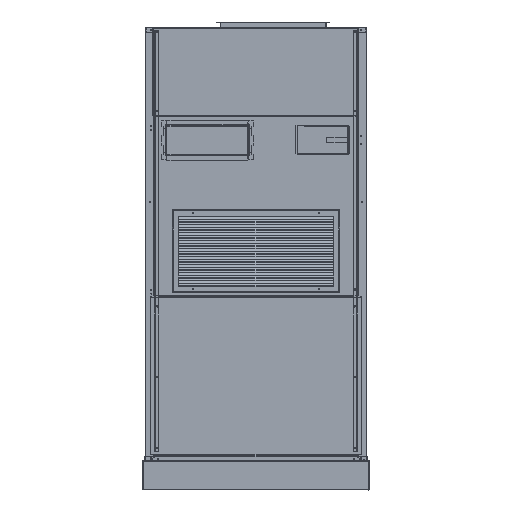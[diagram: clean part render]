
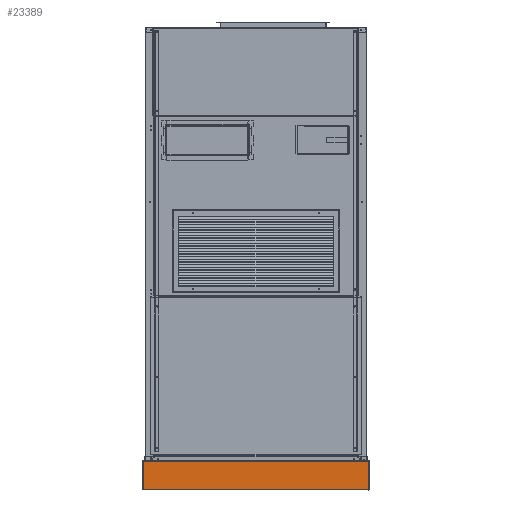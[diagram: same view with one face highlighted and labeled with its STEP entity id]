
A CAD part, top view. The second image highlights one B-rep face of the part: STEP entity #23389.
In plain terms, the highlighted planar face has unit normal (0, 0, 1).
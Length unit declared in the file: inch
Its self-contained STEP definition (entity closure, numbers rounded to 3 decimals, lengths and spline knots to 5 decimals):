
#282 = VERTEX_POINT ( 'NONE', #85675 ) ;
#1412 = DIRECTION ( 'NONE',  ( -1., 0., 0. ) ) ;
#2372 = ORIENTED_EDGE ( 'NONE', *, *, #50198, .F. ) ;
#3172 = VECTOR ( 'NONE', #7396, 39.37008 ) ;
#3379 = EDGE_CURVE ( 'NONE', #103857, #48977, #13466, .T. ) ;
#3678 = LINE ( 'NONE', #85674, #107593 ) ;
#6134 = ORIENTED_EDGE ( 'NONE', *, *, #111327, .F. ) ;
#6930 = CARTESIAN_POINT ( 'NONE',  ( -67.30526, -27.15107, 0. ) ) ;
#7396 = DIRECTION ( 'NONE',  ( -1., 0., 0. ) ) ;
#8887 = ORIENTED_EDGE ( 'NONE', *, *, #3379, .F. ) ;
#9468 = EDGE_CURVE ( 'NONE', #31089, #123033, #127142, .T. ) ;
#11579 = ORIENTED_EDGE ( 'NONE', *, *, #53661, .F. ) ;
#12474 = VECTOR ( 'NONE', #128857, 39.37008 ) ;
#12827 = LINE ( 'NONE', #40923, #66367 ) ;
#13466 = LINE ( 'NONE', #96702, #74826 ) ;
#14210 = CARTESIAN_POINT ( 'NONE',  ( -24.60136, -21.82077, 0. ) ) ;
#14978 = VERTEX_POINT ( 'NONE', #64789 ) ;
#17554 = CARTESIAN_POINT ( 'NONE',  ( -24.60136, -27.15042, 0. ) ) ;
#17643 = DIRECTION ( 'NONE',  ( 1., 0., 0. ) ) ;
#18697 = EDGE_CURVE ( 'NONE', #59432, #55874, #102962, .T. ) ;
#20166 = VERTEX_POINT ( 'NONE', #91400 ) ;
#23389 = ADVANCED_FACE ( 'NONE', ( #38035 ), #41029, .F. ) ;
#24096 = EDGE_CURVE ( 'NONE', #85634, #282, #30050, .T. ) ;
#24524 = CARTESIAN_POINT ( 'NONE',  ( -9.01411, -27.15107, 0. ) ) ;
#24996 = CARTESIAN_POINT ( 'NONE',  ( -9.01411, -21.82142, 0. ) ) ;
#28635 = CARTESIAN_POINT ( 'NONE',  ( -67.30591, -20.32749, 0. ) ) ;
#29080 = VECTOR ( 'NONE', #108273, 39.37008 ) ;
#30050 = LINE ( 'NONE', #24996, #104095 ) ;
#31089 = VERTEX_POINT ( 'NONE', #121497 ) ;
#36434 = DIRECTION ( 'NONE',  ( -1., 0., 0. ) ) ;
#37273 = CARTESIAN_POINT ( 'NONE',  ( -24.60071, -20.32749, 0. ) ) ;
#38035 = FACE_OUTER_BOUND ( 'NONE', #105632, .T. ) ;
#40923 = CARTESIAN_POINT ( 'NONE',  ( -9.01411, -21.82142, 0. ) ) ;
#41029 = PLANE ( 'NONE',  #53947 ) ;
#42589 = ORIENTED_EDGE ( 'NONE', *, *, #110709, .F. ) ;
#45164 = DIRECTION ( 'NONE',  ( 0., 1., 0. ) ) ;
#46238 = LINE ( 'NONE', #28635, #90345 ) ;
#47835 = EDGE_CURVE ( 'NONE', #100023, #59432, #3678, .T. ) ;
#48977 = VERTEX_POINT ( 'NONE', #17554 ) ;
#48979 = ORIENTED_EDGE ( 'NONE', *, *, #9468, .F. ) ;
#50198 = EDGE_CURVE ( 'NONE', #282, #103857, #124309, .T. ) ;
#50353 = ORIENTED_EDGE ( 'NONE', *, *, #72268, .F. ) ;
#51055 = DIRECTION ( 'NONE',  ( 1., 0., 0. ) ) ;
#52871 = CARTESIAN_POINT ( 'NONE',  ( -67.30591, -27.15042, 0. ) ) ;
#53661 = EDGE_CURVE ( 'NONE', #48977, #31089, #79509, .T. ) ;
#53947 = AXIS2_PLACEMENT_3D ( 'NONE', #122059, #61799, #1412 ) ;
#54228 = EDGE_CURVE ( 'NONE', #14978, #124038, #110226, .T. ) ;
#55874 = VERTEX_POINT ( 'NONE', #14210 ) ;
#57566 = CARTESIAN_POINT ( 'NONE',  ( -9.01411, -27.15042, 0. ) ) ;
#58483 = CARTESIAN_POINT ( 'NONE',  ( -67.30526, -20.32749, 0. ) ) ;
#59202 = CARTESIAN_POINT ( 'NONE',  ( -24.60136, -20.32749, 0. ) ) ;
#59432 = VERTEX_POINT ( 'NONE', #102815 ) ;
#61799 = DIRECTION ( 'NONE',  ( 0., 0., -1. ) ) ;
#63002 = VECTOR ( 'NONE', #109756, 39.37008 ) ;
#64789 = CARTESIAN_POINT ( 'NONE',  ( -67.30526, -27.15042, 0. ) ) ;
#66367 = VECTOR ( 'NONE', #51055, 39.37008 ) ;
#69888 = ORIENTED_EDGE ( 'NONE', *, *, #24096, .F. ) ;
#72268 = EDGE_CURVE ( 'NONE', #124038, #20166, #46238, .T. ) ;
#74826 = VECTOR ( 'NONE', #36434, 39.37008 ) ;
#76223 = VECTOR ( 'NONE', #17643, 39.37008 ) ;
#77520 = ORIENTED_EDGE ( 'NONE', *, *, #47835, .F. ) ;
#79509 = LINE ( 'NONE', #88078, #29080 ) ;
#84832 = DIRECTION ( 'NONE',  ( -1., 0., 0. ) ) ;
#85634 = VERTEX_POINT ( 'NONE', #98850 ) ;
#85674 = CARTESIAN_POINT ( 'NONE',  ( -67.30526, -20.32749, 0. ) ) ;
#85675 = CARTESIAN_POINT ( 'NONE',  ( -24.60071, -21.82142, 0. ) ) ;
#88078 = CARTESIAN_POINT ( 'NONE',  ( -24.60136, -20.32749, 0. ) ) ;
#90345 = VECTOR ( 'NONE', #109169, 39.37008 ) ;
#91400 = CARTESIAN_POINT ( 'NONE',  ( -67.30591, -21.82142, 0. ) ) ;
#92949 = LINE ( 'NONE', #59202, #63002 ) ;
#94666 = EDGE_CURVE ( 'NONE', #123033, #14978, #119525, .T. ) ;
#95459 = DIRECTION ( 'NONE',  ( 1., 0., 0. ) ) ;
#96702 = CARTESIAN_POINT ( 'NONE',  ( -9.01411, -27.15042, 0. ) ) ;
#97526 = DIRECTION ( 'NONE',  ( 0., -1., 0. ) ) ;
#98850 = CARTESIAN_POINT ( 'NONE',  ( -24.60136, -21.82142, 0. ) ) ;
#100023 = VERTEX_POINT ( 'NONE', #111140 ) ;
#100340 = VECTOR ( 'NONE', #84832, 39.37008 ) ;
#102815 = CARTESIAN_POINT ( 'NONE',  ( -67.30526, -21.82077, 0. ) ) ;
#102962 = LINE ( 'NONE', #117931, #76223 ) ;
#103857 = VERTEX_POINT ( 'NONE', #111330 ) ;
#104095 = VECTOR ( 'NONE', #95459, 39.37008 ) ;
#105632 = EDGE_LOOP ( 'NONE', ( #69888, #42589, #125279, #77520, #6134, #50353, #119595, #121004, #48979, #11579, #8887, #2372 ) ) ;
#107593 = VECTOR ( 'NONE', #45164, 39.37008 ) ;
#108273 = DIRECTION ( 'NONE',  ( 0., -1., 0. ) ) ;
#109169 = DIRECTION ( 'NONE',  ( 0., 1., 0. ) ) ;
#109756 = DIRECTION ( 'NONE',  ( 0., -1., 0. ) ) ;
#110226 = LINE ( 'NONE', #57566, #3172 ) ;
#110709 = EDGE_CURVE ( 'NONE', #55874, #85634, #92949, .T. ) ;
#111140 = CARTESIAN_POINT ( 'NONE',  ( -67.30526, -21.82142, 0. ) ) ;
#111327 = EDGE_CURVE ( 'NONE', #20166, #100023, #12827, .T. ) ;
#111330 = CARTESIAN_POINT ( 'NONE',  ( -24.60071, -27.15042, 0. ) ) ;
#117931 = CARTESIAN_POINT ( 'NONE',  ( -9.01411, -21.82077, 0. ) ) ;
#119525 = LINE ( 'NONE', #58483, #12474 ) ;
#119595 = ORIENTED_EDGE ( 'NONE', *, *, #54228, .F. ) ;
#121004 = ORIENTED_EDGE ( 'NONE', *, *, #94666, .F. ) ;
#121144 = VECTOR ( 'NONE', #97526, 39.37008 ) ;
#121497 = CARTESIAN_POINT ( 'NONE',  ( -24.60136, -27.15107, 0. ) ) ;
#122059 = CARTESIAN_POINT ( 'NONE',  ( -9.01411, -20.32749, 0. ) ) ;
#123033 = VERTEX_POINT ( 'NONE', #6930 ) ;
#124038 = VERTEX_POINT ( 'NONE', #52871 ) ;
#124309 = LINE ( 'NONE', #37273, #121144 ) ;
#125279 = ORIENTED_EDGE ( 'NONE', *, *, #18697, .F. ) ;
#127142 = LINE ( 'NONE', #24524, #100340 ) ;
#128857 = DIRECTION ( 'NONE',  ( 0., 1., 0. ) ) ;
